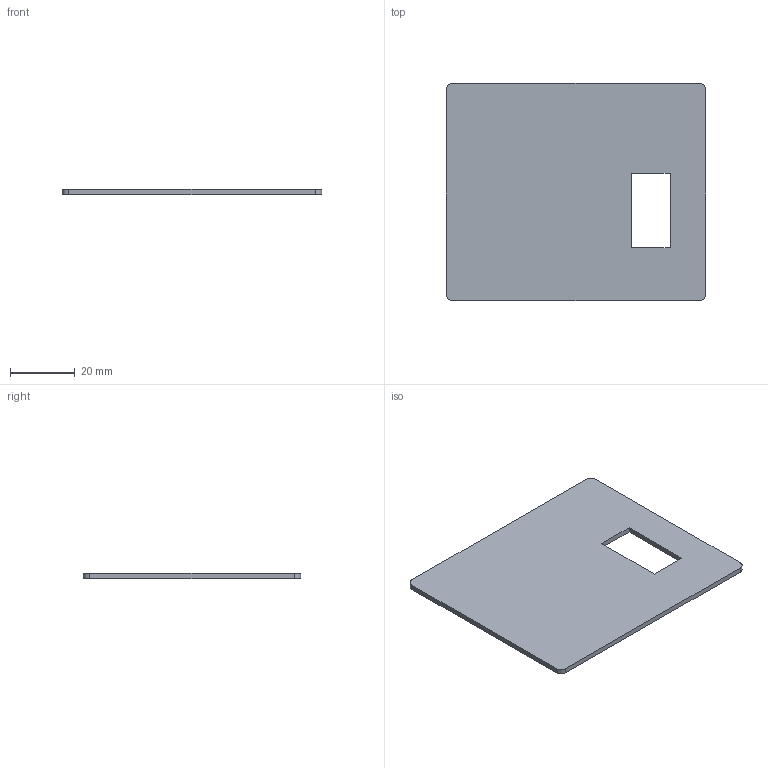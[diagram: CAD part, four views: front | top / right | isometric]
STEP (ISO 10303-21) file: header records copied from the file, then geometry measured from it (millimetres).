
FILE_DESCRIPTION(('Open CASCADE Model'),'2;1');
FILE_NAME('Open CASCADE Shape Model','2026-11-05T01:23:31',('Author'),( 'Open CASCADE'),'Open CASCADE STEP processor 7.8','Open CASCADE 7.8' ,'Unknown');
FILE_SCHEMA(('AUTOMOTIVE_DESIGN { 1 0 10303 214 1 1 1 1 }'));
Length unit declared in the file: millimetre
Products named in the file (1): Open CASCADE STEP translator 7.8 15
Bounding box: 80 x 67 x 1.6 mm (x, y, z)
Volume: 8128.9 mm3; surface area: 10738 mm2
Topology: 1 solids, 1 shells, 14 faces, 36 edges, 24 vertices
Faces by surface type: plane 10, cylinder 4
Entity records: 922 total; most frequent: CARTESIAN_POINT 171, DIRECTION 142, LINE 92, VECTOR 92, ORIENTED_EDGE 72, PCURVE 72, DEFINITIONAL_REPRESENTATION 72, EDGE_CURVE 36
